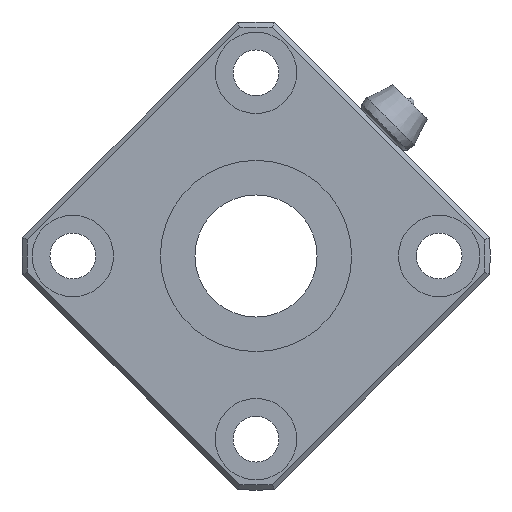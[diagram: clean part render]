
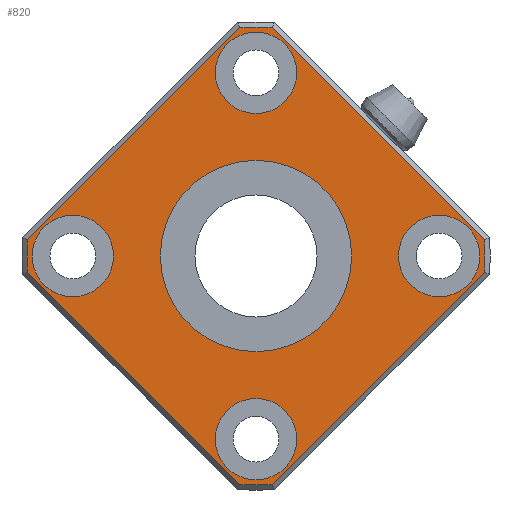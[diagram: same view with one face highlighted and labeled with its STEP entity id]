
A CAD part, left-side view. The second image highlights one B-rep face of the part: STEP entity #820.
In plain terms, the highlighted planar face has unit normal (-1, 0, 0).
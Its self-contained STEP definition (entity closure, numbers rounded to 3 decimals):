
#499=CARTESIAN_POINT('',(0.,-22.443,-1.598));
#500=VERTEX_POINT('',#499);
#508=CARTESIAN_POINT('',(0.,-1.598,-22.443));
#509=VERTEX_POINT('',#508);
#510=CARTESIAN_POINT('',(0.,-22.443,-1.598));
#511=DIRECTION('',(0.0,0.707,-0.707));
#512=VECTOR('',#511,29.479);
#513=LINE('',#510,#512);
#514=EDGE_CURVE('',#500,#509,#513,.T.);
#541=CARTESIAN_POINT('',(0.,1.598,-22.443));
#542=VERTEX_POINT('',#541);
#543=CARTESIAN_POINT('',(0.,0.0,0.0));
#544=DIRECTION('',(1.0,0.0,0.0));
#545=DIRECTION('',(0.0,0.0,-1.0));
#546=AXIS2_PLACEMENT_3D('',#543,#544,#545);
#547=CIRCLE('',#546,22.5);
#548=EDGE_CURVE('',#509,#542,#547,.T.);
#572=CARTESIAN_POINT('',(0.,22.443,-1.598));
#573=VERTEX_POINT('',#572);
#574=CARTESIAN_POINT('',(0.,1.598,-22.443));
#575=DIRECTION('',(0.0,0.707,0.707));
#576=VECTOR('',#575,29.479);
#577=LINE('',#574,#576);
#578=EDGE_CURVE('',#542,#573,#577,.T.);
#597=CARTESIAN_POINT('',(0.,22.443,1.598));
#598=VERTEX_POINT('',#597);
#599=CARTESIAN_POINT('',(0.,0.0,0.0));
#600=DIRECTION('',(1.0,0.0,0.0));
#601=DIRECTION('',(0.0,0.0,1.0));
#602=AXIS2_PLACEMENT_3D('',#599,#600,#601);
#603=CIRCLE('',#602,22.5);
#604=EDGE_CURVE('',#573,#598,#603,.T.);
#623=CARTESIAN_POINT('',(0.,1.598,22.443));
#624=VERTEX_POINT('',#623);
#625=CARTESIAN_POINT('',(0.,22.443,1.598));
#626=DIRECTION('',(0.0,-0.707,0.707));
#627=VECTOR('',#626,29.479);
#628=LINE('',#625,#627);
#629=EDGE_CURVE('',#598,#624,#628,.T.);
#648=CARTESIAN_POINT('',(0.,-1.598,22.443));
#649=VERTEX_POINT('',#648);
#650=CARTESIAN_POINT('',(0.,0.0,0.0));
#651=DIRECTION('',(1.0,0.0,0.0));
#652=DIRECTION('',(0.0,0.0,1.0));
#653=AXIS2_PLACEMENT_3D('',#650,#651,#652);
#654=CIRCLE('',#653,22.5);
#655=EDGE_CURVE('',#624,#649,#654,.T.);
#674=CARTESIAN_POINT('',(0.,-22.443,1.598));
#675=VERTEX_POINT('',#674);
#676=CARTESIAN_POINT('',(0.,-1.598,22.443));
#677=DIRECTION('',(0.0,-0.707,-0.707));
#678=VECTOR('',#677,29.479);
#679=LINE('',#676,#678);
#680=EDGE_CURVE('',#649,#675,#679,.T.);
#705=CARTESIAN_POINT('',(0.,0.0,0.0));
#706=DIRECTION('',(1.0,0.0,0.0));
#707=DIRECTION('',(0.0,0.0,1.0));
#708=AXIS2_PLACEMENT_3D('',#705,#706,#707);
#709=CIRCLE('',#708,22.5);
#710=EDGE_CURVE('',#675,#500,#709,.T.);
#750=CARTESIAN_POINT('',(0.,0.0,11.2));
#751=DIRECTION('',(-1.0,0.0,0.0));
#752=DIRECTION('',(0.0,0.0,1.0));
#753=AXIS2_PLACEMENT_3D('',#750,#751,#752);
#754=PLANE('',#753);
#755=ORIENTED_EDGE('',*,*,#514,.F.);
#756=ORIENTED_EDGE('',*,*,#710,.F.);
#757=ORIENTED_EDGE('',*,*,#680,.F.);
#758=ORIENTED_EDGE('',*,*,#655,.F.);
#759=ORIENTED_EDGE('',*,*,#629,.F.);
#760=ORIENTED_EDGE('',*,*,#604,.F.);
#761=ORIENTED_EDGE('',*,*,#578,.F.);
#762=ORIENTED_EDGE('',*,*,#548,.F.);
#763=EDGE_LOOP('',(#755,#756,#757,#758,#759,#760,#761,#762));
#764=FACE_OUTER_BOUND('',#763,.T.);
#765=CARTESIAN_POINT('',(0.,0.0,9.4));
#766=VERTEX_POINT('',#765);
#767=CARTESIAN_POINT('',(0.,0.0,0.0));
#768=DIRECTION('',(-1.0,0.0,0.0));
#769=DIRECTION('',(0.0,0.0,1.0));
#770=AXIS2_PLACEMENT_3D('',#767,#768,#769);
#771=CIRCLE('',#770,9.4);
#772=EDGE_CURVE('',#766,#766,#771,.T.);
#773=ORIENTED_EDGE('',*,*,#772,.F.);
#774=EDGE_LOOP('',(#773));
#775=FACE_BOUND('',#774,.T.);
#776=CARTESIAN_POINT('',(0.0,-14.,0.));
#777=VERTEX_POINT('',#776);
#778=CARTESIAN_POINT('',(0.,-18.0,0.));
#779=DIRECTION('',(1.0,0.0,0.0));
#780=DIRECTION('',(0.0,1.0,0.0));
#781=AXIS2_PLACEMENT_3D('',#778,#779,#780);
#782=CIRCLE('',#781,4.0);
#783=EDGE_CURVE('',#777,#777,#782,.T.);
#784=ORIENTED_EDGE('',*,*,#783,.T.);
#785=EDGE_LOOP('',(#784));
#786=FACE_BOUND('',#785,.T.);
#787=CARTESIAN_POINT('',(0.0,22.0,0.));
#788=VERTEX_POINT('',#787);
#789=CARTESIAN_POINT('',(0.,18.0,0.));
#790=DIRECTION('',(1.0,0.0,0.0));
#791=DIRECTION('',(0.0,1.0,0.0));
#792=AXIS2_PLACEMENT_3D('',#789,#790,#791);
#793=CIRCLE('',#792,4.0);
#794=EDGE_CURVE('',#788,#788,#793,.T.);
#795=ORIENTED_EDGE('',*,*,#794,.T.);
#796=EDGE_LOOP('',(#795));
#797=FACE_BOUND('',#796,.T.);
#798=CARTESIAN_POINT('',(0.0,4.,18.0));
#799=VERTEX_POINT('',#798);
#800=CARTESIAN_POINT('',(0.,0.,18.0));
#801=DIRECTION('',(1.0,0.0,0.0));
#802=DIRECTION('',(0.0,1.0,0.0));
#803=AXIS2_PLACEMENT_3D('',#800,#801,#802);
#804=CIRCLE('',#803,4.0);
#805=EDGE_CURVE('',#799,#799,#804,.T.);
#806=ORIENTED_EDGE('',*,*,#805,.T.);
#807=EDGE_LOOP('',(#806));
#808=FACE_BOUND('',#807,.T.);
#809=CARTESIAN_POINT('',(0.0,4.,-18.0));
#810=VERTEX_POINT('',#809);
#811=CARTESIAN_POINT('',(0.,0.,-18.0));
#812=DIRECTION('',(1.0,0.0,0.0));
#813=DIRECTION('',(0.0,1.0,0.0));
#814=AXIS2_PLACEMENT_3D('',#811,#812,#813);
#815=CIRCLE('',#814,4.0);
#816=EDGE_CURVE('',#810,#810,#815,.T.);
#817=ORIENTED_EDGE('',*,*,#816,.T.);
#818=EDGE_LOOP('',(#817));
#819=FACE_BOUND('',#818,.T.);
#820=ADVANCED_FACE('',(#764,#775,#786,#797,#808,#819),#754,.T.);
